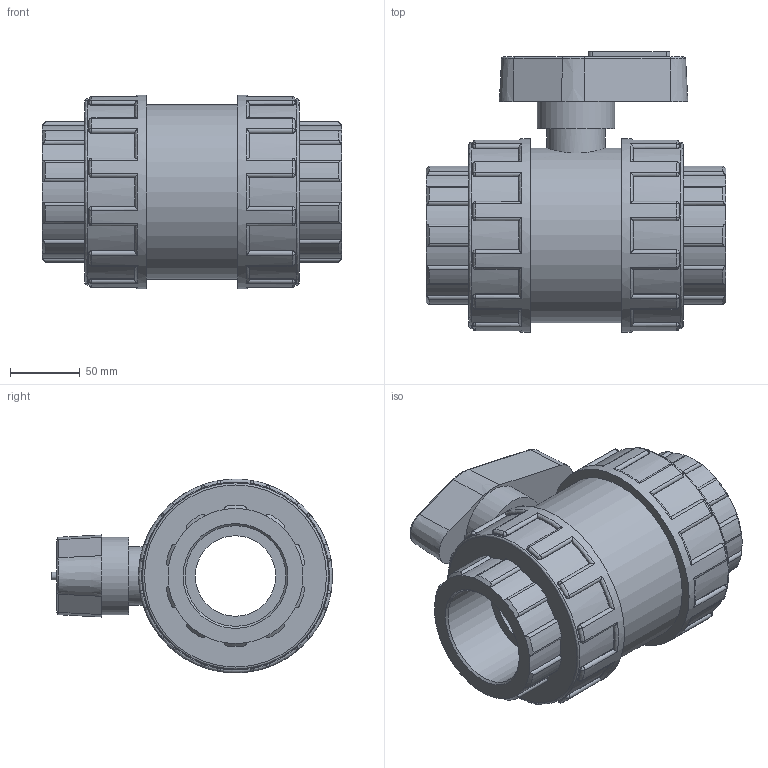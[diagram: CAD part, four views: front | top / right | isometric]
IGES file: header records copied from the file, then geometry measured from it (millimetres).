
Global section: file name: 11241025.ipt; native system: Autodesk Inventor 2015; preprocessor: unknown; author: KIM; date: 20171207.170316; units: millimetre
Bounding box: 215 x 201.34 x 139 mm (x, y, z)
Volume: 2102386.5 mm3; surface area: 182297 mm2
Topology: 1 solids, 1 shells, 434 faces, 1085 edges, 662 vertices
Faces by surface type: cylinder 189, plane 114, revolution 59, sphere 48, cone 24
Full cylindrical faces by diameter (mm): 41.7 x1, 55.6 x1, 125.1 x1, 133.44 x2, 139 x2
